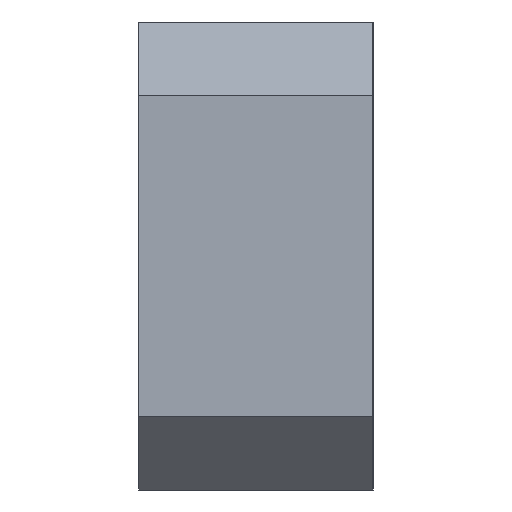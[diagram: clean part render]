
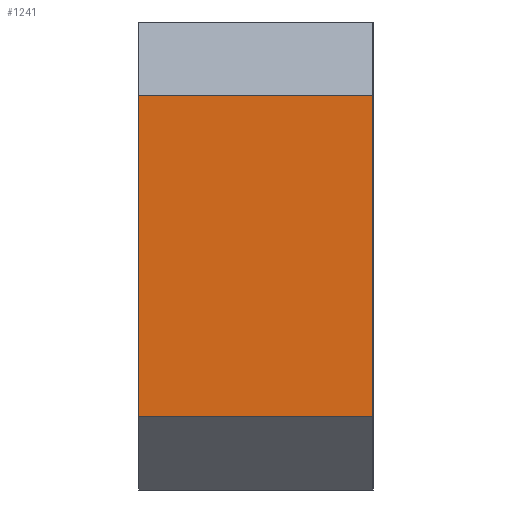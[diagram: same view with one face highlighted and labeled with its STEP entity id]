
A CAD part, left-side view. The second image highlights one B-rep face of the part: STEP entity #1241.
In plain terms, the highlighted planar face has unit normal (-1, 0, 0).
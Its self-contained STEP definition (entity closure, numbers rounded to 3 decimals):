
#66 = VECTOR ( 'NONE', #1426, 1000. ) ;
#70 = VECTOR ( 'NONE', #980, 1000. ) ;
#313 = EDGE_LOOP ( 'NONE', ( #732, #1201, #868, #702 ) ) ;
#344 = LINE ( 'NONE', #1566, #953 ) ;
#379 = FACE_OUTER_BOUND ( 'NONE', #313, .T. ) ;
#381 = LINE ( 'NONE', #806, #66 ) ;
#424 = CARTESIAN_POINT ( 'NONE',  ( -35., 8., -5.5 ) ) ;
#457 = LINE ( 'NONE', #1230, #70 ) ;
#525 = DIRECTION ( 'NONE',  ( 0., 0., -1. ) ) ;
#563 = CARTESIAN_POINT ( 'NONE',  ( -35., 8., 5.5 ) ) ;
#677 = EDGE_CURVE ( 'NONE', #1456, #1316, #457, .T. ) ;
#702 = ORIENTED_EDGE ( 'NONE', *, *, #1185, .T. ) ;
#732 = ORIENTED_EDGE ( 'NONE', *, *, #932, .T. ) ;
#806 = CARTESIAN_POINT ( 'NONE',  ( -35., 8., 5.5 ) ) ;
#831 = EDGE_CURVE ( 'NONE', #891, #1316, #381, .T. ) ;
#868 = ORIENTED_EDGE ( 'NONE', *, *, #677, .F. ) ;
#869 = LINE ( 'NONE', #1470, #1050 ) ;
#891 = VERTEX_POINT ( 'NONE', #1389 ) ;
#932 = EDGE_CURVE ( 'NONE', #1416, #891, #869, .T. ) ;
#943 = PLANE ( 'NONE',  #1410 ) ;
#953 = VECTOR ( 'NONE', #1174, 1000. ) ;
#980 = DIRECTION ( 'NONE',  ( 0., 0., 1. ) ) ;
#1050 = VECTOR ( 'NONE', #1437, 1000. ) ;
#1174 = DIRECTION ( 'NONE',  ( 0., -1., 0. ) ) ;
#1179 = DIRECTION ( 'NONE',  ( 1., 0., 0. ) ) ;
#1185 = EDGE_CURVE ( 'NONE', #1456, #1416, #344, .T. ) ;
#1201 = ORIENTED_EDGE ( 'NONE', *, *, #831, .T. ) ;
#1230 = CARTESIAN_POINT ( 'NONE',  ( -35., 8., -8. ) ) ;
#1241 = ADVANCED_FACE ( 'NONE', ( #379 ), #943, .F. ) ;
#1259 = CARTESIAN_POINT ( 'NONE',  ( -35., 8., -8. ) ) ;
#1316 = VERTEX_POINT ( 'NONE', #563 ) ;
#1389 = CARTESIAN_POINT ( 'NONE',  ( -35., 0., 5.5 ) ) ;
#1410 = AXIS2_PLACEMENT_3D ( 'NONE', #1259, #1179, #525 ) ;
#1416 = VERTEX_POINT ( 'NONE', #1431 ) ;
#1426 = DIRECTION ( 'NONE',  ( 0., 1., 0. ) ) ;
#1431 = CARTESIAN_POINT ( 'NONE',  ( -35., 0., -5.5 ) ) ;
#1437 = DIRECTION ( 'NONE',  ( 0., 0., 1. ) ) ;
#1456 = VERTEX_POINT ( 'NONE', #424 ) ;
#1470 = CARTESIAN_POINT ( 'NONE',  ( -35., 0., -8. ) ) ;
#1566 = CARTESIAN_POINT ( 'NONE',  ( -35., 8., -5.5 ) ) ;
